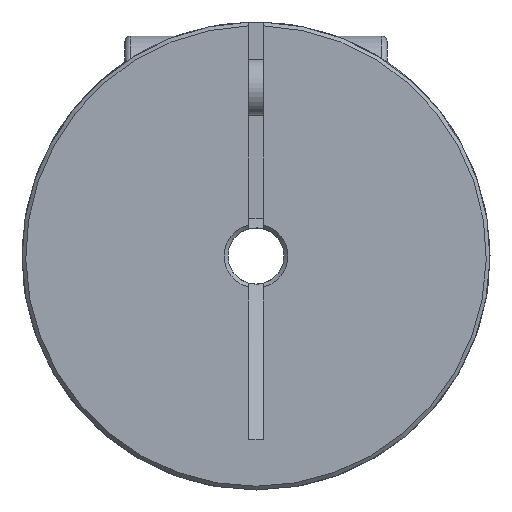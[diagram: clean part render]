
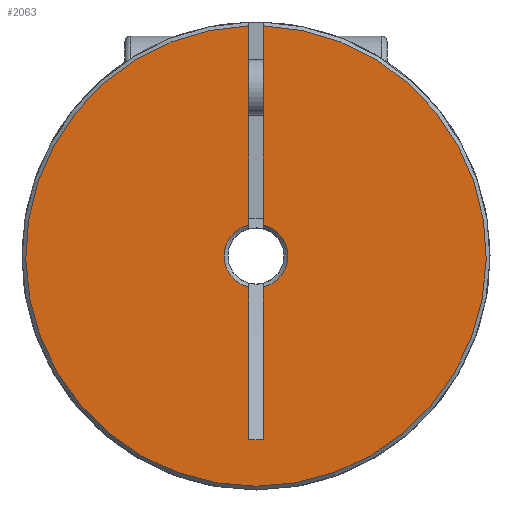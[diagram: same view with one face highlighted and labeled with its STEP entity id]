
A CAD part, left-side view. The second image highlights one B-rep face of the part: STEP entity #2063.
In plain terms, the highlighted planar face has unit normal (-1, 0, 0).
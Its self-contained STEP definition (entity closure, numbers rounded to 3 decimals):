
#136=LINE('',#3349,#222);
#139=LINE('',#3368,#225);
#142=LINE('',#3384,#228);
#145=LINE('',#3397,#231);
#148=LINE('',#3419,#234);
#222=VECTOR('',#2587,1000.);
#225=VECTOR('',#2594,1000.);
#228=VECTOR('',#2603,1000.);
#231=VECTOR('',#2610,1000.);
#234=VECTOR('',#2619,1000.);
#390=ORIENTED_EDGE('',*,*,#886,.T.);
#391=ORIENTED_EDGE('',*,*,#853,.F.);
#392=ORIENTED_EDGE('',*,*,#860,.F.);
#393=ORIENTED_EDGE('',*,*,#842,.T.);
#394=ORIENTED_EDGE('',*,*,#887,.T.);
#395=ORIENTED_EDGE('',*,*,#836,.T.);
#396=ORIENTED_EDGE('',*,*,#888,.F.);
#397=ORIENTED_EDGE('',*,*,#848,.F.);
#836=EDGE_CURVE('',#1088,#1087,#136,.T.);
#842=EDGE_CURVE('',#1094,#1092,#139,.T.);
#848=EDGE_CURVE('',#1099,#1100,#142,.T.);
#853=EDGE_CURVE('',#1104,#1105,#145,.T.);
#860=EDGE_CURVE('',#1094,#1104,#148,.T.);
#886=EDGE_CURVE('',#1099,#1105,#1280,.T.);
#887=EDGE_CURVE('',#1092,#1088,#1281,.T.);
#888=EDGE_CURVE('',#1100,#1087,#1282,.T.);
#1087=VERTEX_POINT('',#3348);
#1088=VERTEX_POINT('',#3350);
#1092=VERTEX_POINT('',#3366);
#1094=VERTEX_POINT('',#3369);
#1099=VERTEX_POINT('',#3383);
#1100=VERTEX_POINT('',#3385);
#1104=VERTEX_POINT('',#3398);
#1105=VERTEX_POINT('',#3399);
#1280=CIRCLE('',#2263,1.7);
#1281=CIRCLE('',#2264,1.7);
#1282=CIRCLE('',#2265,12.3);
#1432=EDGE_LOOP('',(#390,#391,#392,#393,#394,#395,#396,#397));
#1708=FACE_BOUND('',#1432,.T.);
#1967=PLANE('',#2262);
#2063=ADVANCED_FACE('',(#1708),#1967,.F.);
#2262=AXIS2_PLACEMENT_3D('',#3536,#2660,#2661);
#2263=AXIS2_PLACEMENT_3D('',#3537,#2662,#2663);
#2264=AXIS2_PLACEMENT_3D('',#3538,#2664,#2665);
#2265=AXIS2_PLACEMENT_3D('',#3539,#2666,#2667);
#2587=DIRECTION('',(0.,0.,1.));
#2594=DIRECTION('',(0.,0.,1.));
#2603=DIRECTION('',(0.,0.,1.));
#2610=DIRECTION('',(0.,0.,1.));
#2619=DIRECTION('',(0.,-1.,0.));
#2660=DIRECTION('',(1.,0.,0.));
#2661=DIRECTION('',(0.,0.,-1.));
#2662=DIRECTION('',(1.,0.,0.));
#2663=DIRECTION('',(0.,0.,-1.));
#2664=DIRECTION('',(1.,0.,0.));
#2665=DIRECTION('',(0.,0.,-1.));
#2666=DIRECTION('',(1.,0.,0.));
#2667=DIRECTION('',(0.,0.,-1.));
#3348=CARTESIAN_POINT('',(0.,0.4,12.293));
#3349=CARTESIAN_POINT('',(0.,0.4,-9.815));
#3350=CARTESIAN_POINT('',(0.,0.4,1.652));
#3366=CARTESIAN_POINT('',(0.,0.4,-1.652));
#3368=CARTESIAN_POINT('',(0.,0.4,-9.815));
#3369=CARTESIAN_POINT('',(0.,0.4,-9.815));
#3383=CARTESIAN_POINT('',(0.,-0.4,1.652));
#3384=CARTESIAN_POINT('',(0.,-0.4,-9.815));
#3385=CARTESIAN_POINT('',(0.,-0.4,12.293));
#3397=CARTESIAN_POINT('',(0.,-0.4,-9.815));
#3398=CARTESIAN_POINT('',(0.,-0.4,-9.815));
#3399=CARTESIAN_POINT('',(0.,-0.4,-1.652));
#3419=CARTESIAN_POINT('',(0.,0.4,-9.815));
#3536=CARTESIAN_POINT('',(0.,0.,0.));
#3537=CARTESIAN_POINT('',(0.,0.,0.));
#3538=CARTESIAN_POINT('',(0.,0.,0.));
#3539=CARTESIAN_POINT('',(0.,0.,0.));
